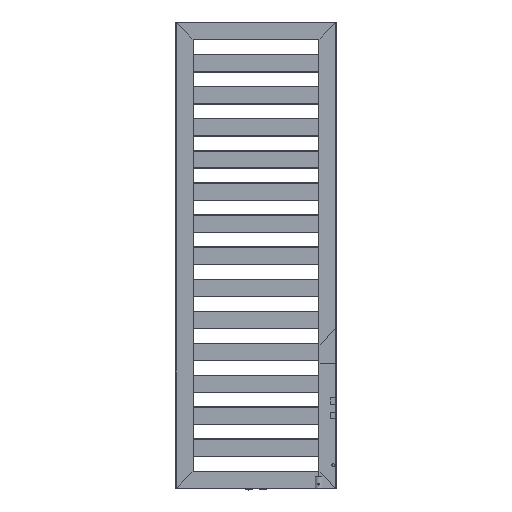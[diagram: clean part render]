
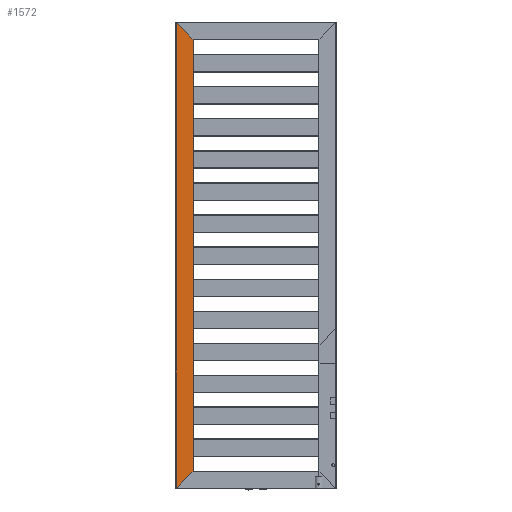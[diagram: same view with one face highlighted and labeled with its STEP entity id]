
A CAD part, top view. The second image highlights one B-rep face of the part: STEP entity #1572.
In plain terms, the highlighted planar face has unit normal (0, 0, 1) as drawn and (0, 0, -1) by its records, which use the part's own axes.
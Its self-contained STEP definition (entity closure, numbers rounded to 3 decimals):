
#1572 = ADVANCED_FACE( '', ( #3236 ), #3237, .T. );
#3236 = FACE_OUTER_BOUND( '', #5171, .T. );
#3237 = PLANE( '', #5172 );
#5171 = EDGE_LOOP( '', ( #9401, #9402, #9403, #9404 ) );
#5172 = AXIS2_PLACEMENT_3D( '', #9405, #9406, #9407 );
#9401 = ORIENTED_EDGE( '', *, *, #12252, .F. );
#9402 = ORIENTED_EDGE( '', *, *, #10827, .F. );
#9403 = ORIENTED_EDGE( '', *, *, #11256, .T. );
#9404 = ORIENTED_EDGE( '', *, *, #12182, .T. );
#9405 = CARTESIAN_POINT( '', ( 1., 1600., 0. ) );
#9406 = DIRECTION( '', ( 0., 0., -1. ) );
#9407 = DIRECTION( '', ( -1., 0., 0. ) );
#10827 = EDGE_CURVE( '', #12943, #12939, #12945, .T. );
#11256 = EDGE_CURVE( '', #12943, #13666, #13668, .T. );
#12182 = EDGE_CURVE( '', #13666, #14985, #14988, .T. );
#12252 = EDGE_CURVE( '', #12939, #14985, #15068, .T. );
#12939 = VERTEX_POINT( '', #16008 );
#12943 = VERTEX_POINT( '', #16013 );
#12945 = LINE( '', #16015, #16016 );
#13666 = VERTEX_POINT( '', #17140 );
#13668 = LINE( '', #17142, #17143 );
#14985 = VERTEX_POINT( '', #19416 );
#14988 = LINE( '', #19419, #19420 );
#15068 = LINE( '', #19526, #19527 );
#16008 = CARTESIAN_POINT( '', ( 1., 59., 0. ) );
#16013 = CARTESIAN_POINT( '', ( 1., 1541., 0. ) );
#16015 = CARTESIAN_POINT( '', ( 1., 1600., 0. ) );
#16016 = VECTOR( '', #20196, 1000. );
#17140 = CARTESIAN_POINT( '', ( 59., 1599., 0. ) );
#17142 = CARTESIAN_POINT( '', ( 30.5, 1570.5, 0. ) );
#17143 = VECTOR( '', #20712, 1000. );
#19416 = CARTESIAN_POINT( '', ( 59., 1., 0. ) );
#19419 = CARTESIAN_POINT( '', ( 59., 1600., 0. ) );
#19420 = VECTOR( '', #21738, 1000. );
#19526 = CARTESIAN_POINT( '', ( -769.5, 829.5, 0. ) );
#19527 = VECTOR( '', #21798, 1000. );
#20196 = DIRECTION( '', ( 0., -1., 0. ) );
#20712 = DIRECTION( '', ( 0.707, 0.707, 0. ) );
#21738 = DIRECTION( '', ( 0., -1., 0. ) );
#21798 = DIRECTION( '', ( 0.707, -0.707, 0. ) );
